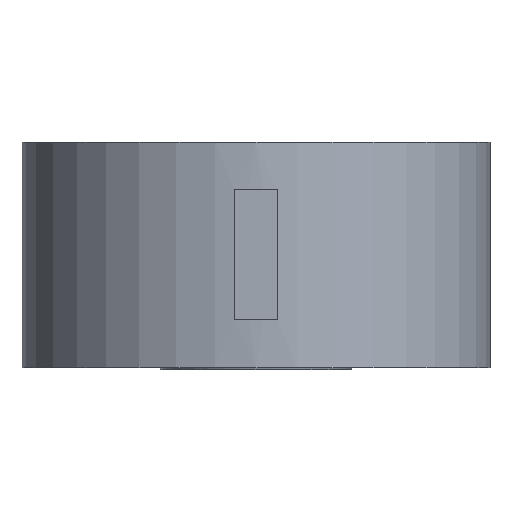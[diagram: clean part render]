
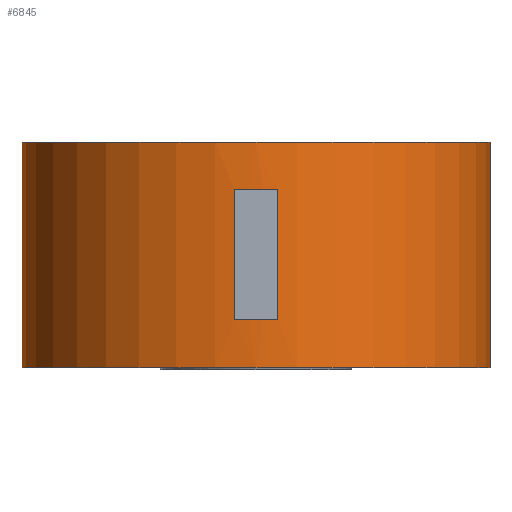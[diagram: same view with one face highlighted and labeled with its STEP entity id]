
A CAD part, front view. The second image highlights one B-rep face of the part: STEP entity #6845.
In plain terms, the highlighted cylindrical face has radius 27 mm (diameter 54 mm), a partial arc.
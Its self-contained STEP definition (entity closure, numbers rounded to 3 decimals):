
#209 = CYLINDRICAL_SURFACE ( 'NONE', #5691, 27. ) ;
#213 = DIRECTION ( 'NONE',  ( 1., 0., 0. ) ) ;
#351 = CARTESIAN_POINT ( 'NONE',  ( 0., 0., 7.5 ) ) ;
#380 = EDGE_CURVE ( 'NONE', #3717, #8334, #970, .T. ) ;
#584 = CIRCLE ( 'NONE', #3392, 27. ) ;
#611 = EDGE_CURVE ( 'NONE', #4459, #3717, #7359, .T. ) ;
#695 = ORIENTED_EDGE ( 'NONE', *, *, #611, .T. ) ;
#731 = CARTESIAN_POINT ( 'NONE',  ( 2.5, -26.884, 7.5 ) ) ;
#970 = CIRCLE ( 'NONE', #8747, 27. ) ;
#978 = EDGE_CURVE ( 'NONE', #4244, #5591, #1220, .T. ) ;
#1038 = EDGE_LOOP ( 'NONE', ( #1542, #7824, #695, #4810 ) ) ;
#1052 = CARTESIAN_POINT ( 'NONE',  ( 27., 0., 13. ) ) ;
#1115 = VECTOR ( 'NONE', #4029, 1000. ) ;
#1134 = CARTESIAN_POINT ( 'NONE',  ( -2.5, -26.884, 7.5 ) ) ;
#1220 = LINE ( 'NONE', #4200, #4521 ) ;
#1257 = CARTESIAN_POINT ( 'NONE',  ( 0., 0., 13. ) ) ;
#1332 = EDGE_CURVE ( 'NONE', #4459, #6652, #8107, .T. ) ;
#1542 = ORIENTED_EDGE ( 'NONE', *, *, #2943, .F. ) ;
#1632 = EDGE_LOOP ( 'NONE', ( #8144, #7873, #8773, #9259 ) ) ;
#1830 = DIRECTION ( 'NONE',  ( -1., 0., 0. ) ) ;
#2009 = VERTEX_POINT ( 'NONE', #9016 ) ;
#2036 = VECTOR ( 'NONE', #9554, 1000. ) ;
#2064 = CARTESIAN_POINT ( 'NONE',  ( -27., 0., 13. ) ) ;
#2089 = DIRECTION ( 'NONE',  ( 0., 0., 1. ) ) ;
#2456 = DIRECTION ( 'NONE',  ( 0., 0., -1. ) ) ;
#2501 = DIRECTION ( 'NONE',  ( -1., 0., 0. ) ) ;
#2603 = CARTESIAN_POINT ( 'NONE',  ( 0., 0., 13. ) ) ;
#2648 = FACE_BOUND ( 'NONE', #1632, .T. ) ;
#2943 = EDGE_CURVE ( 'NONE', #6652, #8334, #3146, .T. ) ;
#3112 = CARTESIAN_POINT ( 'NONE',  ( -2.5, -26.884, -7.5 ) ) ;
#3146 = LINE ( 'NONE', #1052, #1115 ) ;
#3392 = AXIS2_PLACEMENT_3D ( 'NONE', #5016, #4199, #9451 ) ;
#3443 = CARTESIAN_POINT ( 'NONE',  ( 27., 0., 13. ) ) ;
#3717 = VERTEX_POINT ( 'NONE', #5777 ) ;
#3918 = AXIS2_PLACEMENT_3D ( 'NONE', #1257, #5589, #5053 ) ;
#3921 = DIRECTION ( 'NONE',  ( 0., 0., 1. ) ) ;
#4029 = DIRECTION ( 'NONE',  ( 0., 0., -1. ) ) ;
#4199 = DIRECTION ( 'NONE',  ( 0., 0., -1. ) ) ;
#4200 = CARTESIAN_POINT ( 'NONE',  ( -2.5, -26.884, 13. ) ) ;
#4244 = VERTEX_POINT ( 'NONE', #3112 ) ;
#4337 = CARTESIAN_POINT ( 'NONE',  ( 2.5, -26.884, 13. ) ) ;
#4459 = VERTEX_POINT ( 'NONE', #5065 ) ;
#4521 = VECTOR ( 'NONE', #7256, 1000. ) ;
#4766 = AXIS2_PLACEMENT_3D ( 'NONE', #351, #5517, #1830 ) ;
#4810 = ORIENTED_EDGE ( 'NONE', *, *, #380, .T. ) ;
#5016 = CARTESIAN_POINT ( 'NONE',  ( 0., 0., -7.5 ) ) ;
#5053 = DIRECTION ( 'NONE',  ( 1., 0., 0. ) ) ;
#5065 = CARTESIAN_POINT ( 'NONE',  ( -27., 0., 13. ) ) ;
#5278 = CARTESIAN_POINT ( 'NONE',  ( 0., 0., -13. ) ) ;
#5517 = DIRECTION ( 'NONE',  ( 0., 0., -1. ) ) ;
#5589 = DIRECTION ( 'NONE',  ( 0., 0., 1. ) ) ;
#5591 = VERTEX_POINT ( 'NONE', #1134 ) ;
#5691 = AXIS2_PLACEMENT_3D ( 'NONE', #2603, #2456, #2501 ) ;
#5777 = CARTESIAN_POINT ( 'NONE',  ( -27., 0., -13. ) ) ;
#6243 = FACE_OUTER_BOUND ( 'NONE', #1038, .T. ) ;
#6473 = CIRCLE ( 'NONE', #4766, 27. ) ;
#6520 = LINE ( 'NONE', #4337, #7582 ) ;
#6652 = VERTEX_POINT ( 'NONE', #3443 ) ;
#6810 = EDGE_CURVE ( 'NONE', #7128, #5591, #6473, .T. ) ;
#6845 = ADVANCED_FACE ( 'NONE', ( #6243, #2648 ), #209, .T. ) ;
#7128 = VERTEX_POINT ( 'NONE', #731 ) ;
#7256 = DIRECTION ( 'NONE',  ( 0., 0., 1. ) ) ;
#7295 = CARTESIAN_POINT ( 'NONE',  ( 27., 0., -13. ) ) ;
#7359 = LINE ( 'NONE', #2064, #2036 ) ;
#7582 = VECTOR ( 'NONE', #2089, 1000. ) ;
#7824 = ORIENTED_EDGE ( 'NONE', *, *, #1332, .F. ) ;
#7873 = ORIENTED_EDGE ( 'NONE', *, *, #8376, .F. ) ;
#8107 = CIRCLE ( 'NONE', #3918, 27. ) ;
#8144 = ORIENTED_EDGE ( 'NONE', *, *, #6810, .F. ) ;
#8334 = VERTEX_POINT ( 'NONE', #7295 ) ;
#8376 = EDGE_CURVE ( 'NONE', #2009, #7128, #6520, .T. ) ;
#8414 = EDGE_CURVE ( 'NONE', #2009, #4244, #584, .T. ) ;
#8747 = AXIS2_PLACEMENT_3D ( 'NONE', #5278, #3921, #213 ) ;
#8773 = ORIENTED_EDGE ( 'NONE', *, *, #8414, .T. ) ;
#9016 = CARTESIAN_POINT ( 'NONE',  ( 2.5, -26.884, -7.5 ) ) ;
#9259 = ORIENTED_EDGE ( 'NONE', *, *, #978, .T. ) ;
#9451 = DIRECTION ( 'NONE',  ( -1., 0., 0. ) ) ;
#9554 = DIRECTION ( 'NONE',  ( 0., 0., -1. ) ) ;
